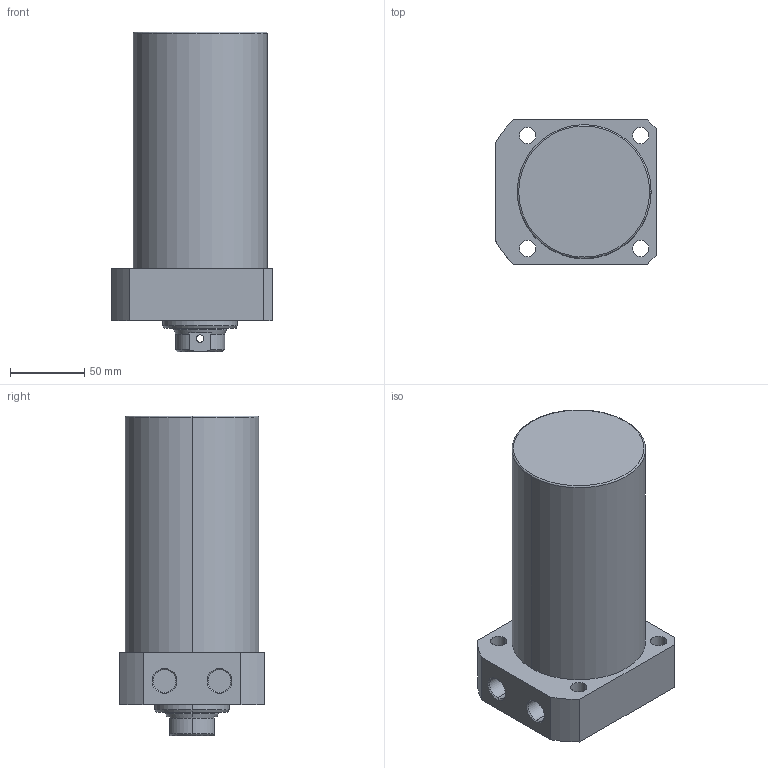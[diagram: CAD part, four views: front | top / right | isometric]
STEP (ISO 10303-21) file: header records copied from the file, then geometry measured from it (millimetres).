
FILE_DESCRIPTION (( 'STEP AP203' ), '1' );
FILE_NAME ('CLLR-090CB-115.STEP', '2019-12-18T06:16:06', ( '' ), ( '' ), 'SwSTEP 2.0', 'SolidWorks 2015', '' );
FILE_SCHEMA (( 'CONFIG_CONTROL_DESIGN' ));
Length unit declared in the file: millimetre
Products named in the file (1): CLLR-090CB-115
Bounding box: 108 x 97 x 215 mm (x, y, z)
Volume: 1360170.7 mm3; surface area: 90166.7 mm2
Topology: 1 solids, 1 shells, 69 faces, 163 edges, 102 vertices
Faces by surface type: cylinder 33, plane 19, cone 15, torus 2
Entity records: 2229 total; most frequent: CARTESIAN_POINT 497, DIRECTION 370, ORIENTED_EDGE 322, EDGE_CURVE 161, AXIS2_PLACEMENT_3D 151, VERTEX_POINT 102, EDGE_LOOP 89, CIRCLE 81
